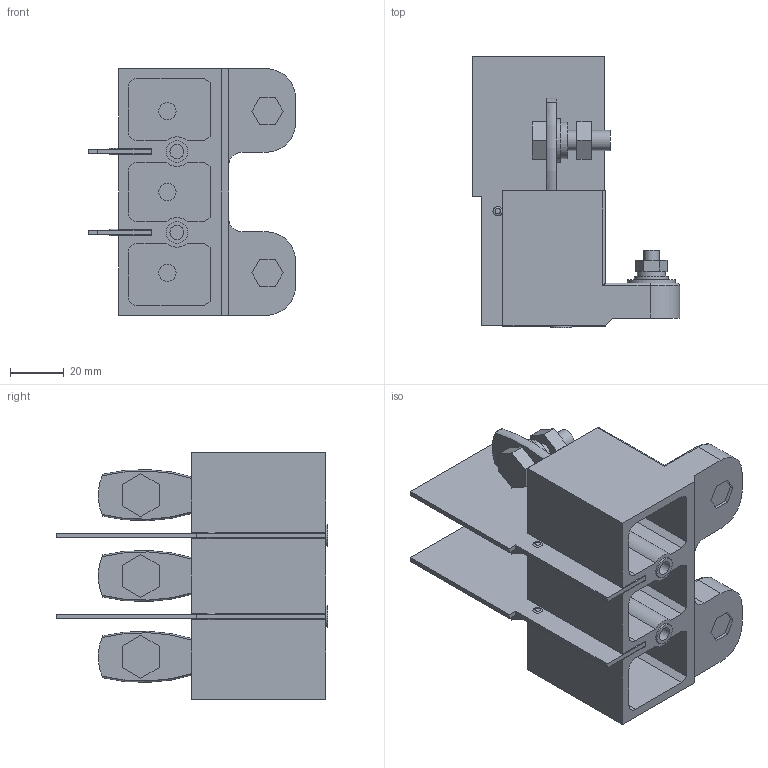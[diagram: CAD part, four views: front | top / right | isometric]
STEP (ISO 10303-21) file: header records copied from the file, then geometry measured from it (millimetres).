
FILE_DESCRIPTION(/* description */ (''),/* implementation_level */ '2;1');
FILE_NAME(/* name */ '125-3P插入式后分体.stp',/* time_stamp */ '2018-06-14T20:14:18+08:00',/* author */ (''),/* organization */ (''),/* preprocessor_version */ 'ST-DEVELOPER v16',/* originating_system */ 'SIEMENS PLM Software NX 10.0',/* authorisation */ '');
FILE_SCHEMA (('AUTOMOTIVE_DESIGN { 1 0 10303 214 3 1 1 1 }'));
Length unit declared in the file: millimetre
Products named in the file (1): boj15BC88EFaxgb
Bounding box: 77 x 100.7 x 91.5 mm (x, y, z)
Volume: 144415.1 mm3; surface area: 66332 mm2
Topology: 3 solids, 8 shells, 443 faces, 1078 edges, 713 vertices
Faces by surface type: plane 323, cylinder 96, bspline 12, torus 12
Full cylindrical faces by diameter (mm): 3 x6, 5.2 x2, 5.75 x4, 6.4 x3, 7.5 x12, 8 x5, 10.5 x2, 12.7 x2, 13.5 x3, 16 x3, 17.8 x2
Entity records: 13191 total; most frequent: CARTESIAN_POINT 2931, DIRECTION 2117, ORIENTED_EDGE 1986, EDGE_CURVE 993, AXIS2_PLACEMENT_3D 710, LINE 697, VECTOR 697, VERTEX_POINT 684
